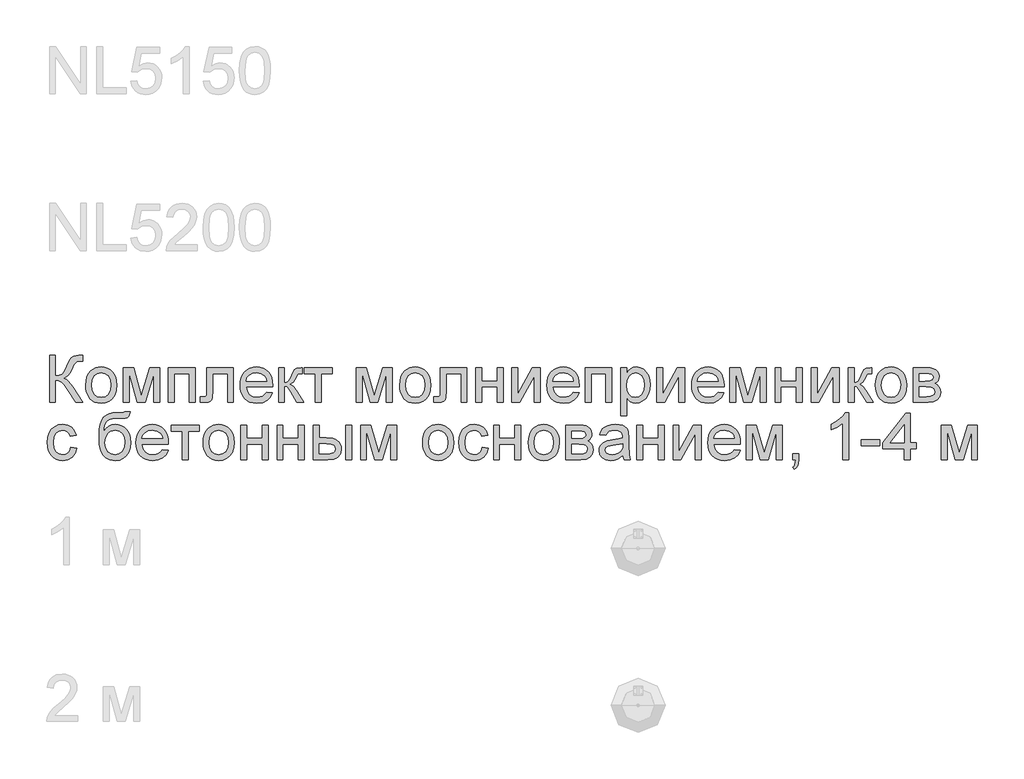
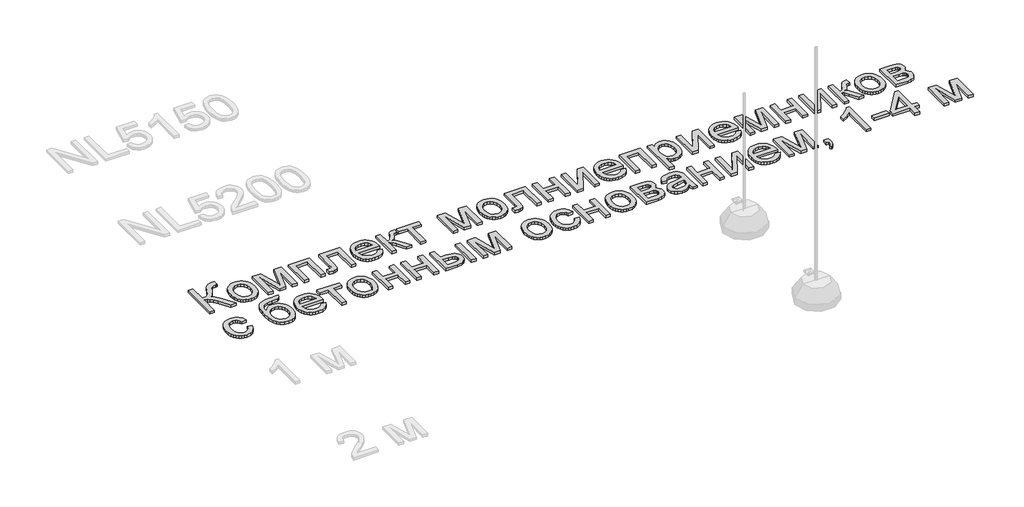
# One storey, part 63 of 124: 1 proxy.
"""IFC4 building model written with IfcOpenShell, lengths in millimetres."""

from ifc_helpers import new_model, si_unit, origin, origin_with_axes, place, context, project, spatial, polyline, outline, extrude, element, save

model = new_model("IFC4")

# Units and contexts
model_context = context("Model", 3, world=origin())
ifc_project = project(units=[si_unit("LENGTHUNIT", "METRE", prefix="MILLI")], contexts=[model_context])

# Site, building, storey
site = spatial("IfcSite", under=ifc_project)
building = spatial("IfcBuilding", under=site)
storey = spatial("IfcBuildingStorey", under=building, Name="Этаж 01", Elevation=0.0)

# Proxy
placement = place(None, origin())
element("IfcBuildingElementProxy", 1, Name="300", ObjectType="300", at=placement, inside=storey, context=model_context, shape_type="SweptSolid", body=[
    extrude(outline(polyline([(10399.8220677, -54773.1294316), (10437.493184, -54773.1294316), (10437.493184, -54904.9783386), (10462.9966033, -54902.4859381), (10479.6156724, -54895.0087366), (10493.0525623, -54877.4147801), (10509.0094439, -54844.572115), (10529.7947766, -54802.4496266), (10539.819561, -54791.0360877), (10553.3392243, -54781.5907174), (10569.3880763, -54775.244753), (10587.0004268, -54773.1294316), (10611.7220969, -54773.5708899), (10611.7220969, -54811.2420063), (10603.4079638, -54811.0212771), (10595.0938307, -54810.8005479), (10577.8401652, -54813.0630221), (10565.6632711, -54819.8504449), (10555.1786343, -54834.1058723), (10543.2960458, -54858.6252072), (10528.7187218, -54889.1594128), (10516.6246012, -54905.8612554), (10490.6153441, -54921.459452), (10505.2064637, -54927.6674607), (10519.6964158, -54938.4923884), (10548.3728173, -54973.9930009), (10611.7220969, -55074.498362), (10568.0177159, -55074.498362), (10514.4540974, -54989.5911975), (10493.7699322, -54962.3587328), (10476.7461929, -54945.2614171), (10459.3361775, -54936.2391112), (10437.493184, -54933.2316759), (10437.493184, -55074.498362), (10399.8220677, -55074.498362), (10399.8220677, -54773.1294316)])), origin_with_axes(), (0.0, 0.0, 1.0), 20.0),
    extrude(outline(polyline([(10630.5576551, -54963.8394579), (10632.5948016, -54935.1768519), (10638.7062413, -54910.4781745), (10648.891974, -54889.7434255), (10663.1519998, -54872.972605), (10677.5085947, -54862.2534434), (10693.3551116, -54854.5968994), (10710.6915507, -54850.002973), (10729.5179118, -54848.4716642), (10750.3009452, -54850.336366), (10769.0928174, -54855.9304716), (10785.8935283, -54865.2539809), (10800.7030778, -54878.306894), (10812.7903006, -54894.6477523), (10821.4240312, -54913.8350977), (10826.6042696, -54935.8689299), (10828.3310157, -54960.7492491), (10825.2775951, -54998.8066415), (10816.1173334, -55027.7773486), (10801.1169451, -55049.4731893), (10780.5431445, -55065.7059823), (10756.106583, -55075.8319342), (10729.5179118, -55079.2072515), (10708.4313757, -55077.3494475), (10689.4647595, -55071.7760352), (10672.6180634, -55062.4870149), (10657.8912873, -55049.4823863), (10645.9328232, -55032.9828788), (10637.3910631, -55013.2092216), (10632.2660071, -54990.1614146), (10630.5576551, -54963.8394579)]), holes=[polyline([(10668.2287714, -54963.7658815), (10672.588173, -54997.8593454), (10685.6663779, -55022.1487541), (10705.3480647, -55036.6892899), (10729.5179118, -55041.5361352), (10753.5773943, -55036.6616988), (10773.2222928, -55022.0383895), (10786.3004977, -54997.427084), (10790.6598994, -54962.5886591), (10786.2729066, -54929.4884766), (10773.1119282, -54905.5301616), (10753.4394385, -54890.9896258), (10729.5179118, -54886.1427805), (10705.3480647, -54890.9712317), (10685.6663779, -54905.4565852), (10672.588173, -54929.6908117), (10668.2287714, -54963.7658815)])]), origin_with_axes(), (0.0, 0.0, 1.0), 20.0),
    extrude(outline(polyline([(10870.7110215, -54853.1805537), (10935.5318291, -54853.1805537), (10985.490204, -55030.3525226), (11039.3481281, -54853.1805537), (11101.4466089, -54853.1805537), (11101.4466089, -55074.498362), (11063.7754926, -55074.498362), (11063.7754926, -54896.2963235), (11009.6232629, -55074.498362), (10960.1799227, -55074.498362), (10908.3821378, -54887.7614613), (10908.3821378, -55074.498362), (10870.7110215, -55074.498362), (10870.7110215, -54853.1805537)])), origin_with_axes(), (0.0, 0.0, 1.0), 20.0),
    extrude(outline(polyline([(11157.9532834, -54853.1805537), (11327.4733067, -54853.1805537), (11327.4733067, -55074.498362), (11289.8021904, -55074.498362), (11289.8021904, -54890.85167), (11195.6243997, -54890.85167), (11195.6243997, -55074.498362), (11157.9532834, -55074.498362), (11157.9532834, -54853.1805537)])), origin_with_axes(), (0.0, 0.0, 1.0), 20.0),
    extrude(outline(polyline([(11402.8155393, -54853.1805537), (11572.3355627, -54853.1805537), (11572.3355627, -55074.2776328), (11534.6644464, -55074.2776328), (11534.6644464, -54890.85167), (11440.4866556, -54890.85167), (11440.4866556, -54996.4338026), (11437.9482699, -55045.1413788), (11433.1933951, -55056.1686416), (11424.0055423, -55065.7059823), (11410.0628146, -55072.3002671), (11391.0433155, -55074.498362), (11360.4355335, -55072.5853756), (11360.4355335, -55036.8272457), (11377.2845289, -55036.8272457), (11394.3174653, -55034.5095891), (11401.1232822, -55027.1519492), (11402.8155393, -54994.3000871), (11402.8155393, -54853.1805537)])), origin_with_axes(), (0.0, 0.0, 1.0), 20.0),
    extrude(outline(polyline([(11783.7941335, -55008.5739085), (11820.7294859, -55013.282798), (11807.4213547, -55041.1130709), (11786.1853665, -55061.9167978), (11757.4997679, -55074.8846381), (11721.8428056, -55079.2072515), (11698.4685033, -55077.3425497), (11677.6417838, -55071.7484441), (11659.3626472, -55062.4249348), (11643.6310934, -55049.3720217), (11630.9805513, -55032.9529884), (11621.9444498, -55013.5311184), (11616.5227889, -54991.1064115), (11614.7155686, -54965.6788678), (11616.541183, -54939.3891007), (11622.0180262, -54916.2171336), (11631.1460982, -54896.1629663), (11643.925399, -54879.226599), (11659.6155661, -54865.771315), (11677.4762369, -54856.1603979), (11697.5074116, -54850.3938476), (11719.70909, -54848.4716642), (11741.1956978, -54850.3892491), (11760.6267649, -54856.1420038), (11778.0022914, -54865.7299283), (11793.3222772, -54879.1530226), (11805.8279658, -54896.0526017), (11814.7606005, -54916.0699808), (11820.1201813, -54939.2051598), (11821.9067082, -54965.4581386), (11821.6859791, -54975.6116817), (11652.3866849, -54975.6116817), (11658.9073932, -55003.8098366), (11674.0549344, -55024.5399871), (11695.916322, -55037.2870982), (11722.5785696, -55041.5361352), (11742.6281383, -55039.5679666), (11759.5139219, -55033.6634605), (11773.2359203, -55023.4547352), (11783.7941335, -55008.5739085)]), holes=[polyline([(11652.3866849, -54937.9405654), (11784.2355919, -54937.9405654), (11779.1404263, -54918.0381495), (11769.1524301, -54903.8011162), (11747.189875, -54890.5573644), (11719.5619372, -54886.1427805), (11694.1688825, -54889.6652506), (11673.1720176, -54900.2326609), (11658.5762994, -54916.7045772), (11652.3866849, -54937.9405654)])]), origin_with_axes(), (0.0, 0.0, 1.0), 20.0),
    extrude(outline(polyline([(11859.5778246, -54853.1805537), (11897.2489409, -54853.1805537), (11897.2489409, -54947.3583445), (11912.571226, -54945.6660873), (11922.4856457, -54940.5893158), (11931.2596313, -54927.3455639), (11943.1606139, -54901.1523659), (11960.340703, -54867.1232813), (11975.4974412, -54856.0500333), (12003.0518027, -54853.1805537), (12010.2622898, -54853.1805537), (12010.2622898, -54891.0723992), (12000.1087467, -54890.85167), (11981.714647, -54894.8247956), (11968.7652007, -54919.620042), (11953.5716743, -54946.4386395), (11932.2713068, -54959.5720267), (11944.2090775, -54964.874126), (11956.0364837, -54974.2321242), (11979.3602022, -55005.1158177), (12019.6800689, -55074.498362), (11976.8586046, -55074.498362), (11937.3480783, -55006.5873457), (11917.4824506, -54977.8557619), (11908.1934302, -54972.6410346), (11897.2489409, -54970.9027922), (11897.2489409, -55074.498362), (11859.5778246, -55074.498362), (11859.5778246, -54853.1805537)])), origin_with_axes(), (0.0, 0.0, 1.0), 20.0),
    extrude(outline(polyline([(12024.3889584, -54853.1805537), (12203.3267608, -54853.1805537), (12203.3267608, -54890.85167), (12132.6934178, -54890.85167), (12132.6934178, -55074.498362), (12095.0223015, -55074.498362), (12095.0223015, -54890.85167), (12024.3889584, -54890.85167), (12024.3889584, -54853.1805537)])), origin_with_axes(), (0.0, 0.0, 1.0), 20.0),
    extrude(outline(polyline([(12354.0112261, -54853.1805537), (12418.8320336, -54853.1805537), (12468.7904086, -55030.3525226), (12522.6483327, -54853.1805537), (12584.7468134, -54853.1805537), (12584.7468134, -55074.498362), (12547.0756971, -55074.498362), (12547.0756971, -54896.2963235), (12492.9234675, -55074.498362), (12443.4801273, -55074.498362), (12391.6823424, -54887.7614613), (12391.6823424, -55074.498362), (12354.0112261, -55074.498362), (12354.0112261, -54853.1805537)])), origin_with_axes(), (0.0, 0.0, 1.0), 20.0),
    extrude(outline(polyline([(12631.8357088, -54963.8394579), (12633.8728554, -54935.1768519), (12639.984295, -54910.4781745), (12650.1700278, -54889.7434255), (12664.4300536, -54872.972605), (12678.7866485, -54862.2534434), (12694.6331654, -54854.5968994), (12711.9696044, -54850.002973), (12730.7959655, -54848.4716642), (12751.578999, -54850.336366), (12770.3708712, -54855.9304716), (12787.171582, -54865.2539809), (12801.9811316, -54878.306894), (12814.0683544, -54894.6477523), (12822.702085, -54913.8350977), (12827.8823233, -54935.8689299), (12829.6090694, -54960.7492491), (12826.5556489, -54998.8066415), (12817.3953872, -55027.7773486), (12802.3949988, -55049.4731893), (12781.8211983, -55065.7059823), (12757.3846367, -55075.8319342), (12730.7959655, -55079.2072515), (12709.7094294, -55077.3494475), (12690.7428133, -55071.7760352), (12673.8961172, -55062.4870149), (12659.1693411, -55049.4823863), (12647.210877, -55032.9828788), (12638.6691169, -55013.2092216), (12633.5440608, -54990.1614146), (12631.8357088, -54963.8394579)]), holes=[polyline([(12669.5068251, -54963.7658815), (12673.8662268, -54997.8593454), (12686.9444317, -55022.1487541), (12706.6261184, -55036.6892899), (12730.7959655, -55041.5361352), (12754.855448, -55036.6616988), (12774.5003466, -55022.0383895), (12787.5785515, -54997.427084), (12791.9379531, -54962.5886591), (12787.5509603, -54929.4884766), (12774.389982, -54905.5301616), (12754.7174923, -54890.9896258), (12730.7959655, -54886.1427805), (12706.6261184, -54890.9712317), (12686.9444317, -54905.4565852), (12673.8662268, -54929.6908117), (12669.5068251, -54963.7658815)])]), origin_with_axes(), (0.0, 0.0, 1.0), 20.0),
    extrude(outline(polyline([(12890.8246334, -54853.1805537), (13060.3446568, -54853.1805537), (13060.3446568, -55074.2776328), (13022.6735405, -55074.2776328), (13022.6735405, -54890.85167), (12928.4957497, -54890.85167), (12928.4957497, -54996.4338026), (12925.957364, -55045.1413788), (12921.2024892, -55056.1686416), (12912.0146364, -55065.7059823), (12898.0719087, -55072.3002671), (12879.0524096, -55074.498362), (12848.4446276, -55072.5853756), (12848.4446276, -55036.8272457), (12865.293623, -55036.8272457), (12882.3265593, -55034.5095891), (12889.1323763, -55027.1519492), (12890.8246334, -54994.3000871), (12890.8246334, -54853.1805537)])), origin_with_axes(), (0.0, 0.0, 1.0), 20.0),
    extrude(outline(polyline([(13116.8513313, -54853.1805537), (13154.5224476, -54853.1805537), (13154.5224476, -54937.9405654), (13253.4091279, -54937.9405654), (13253.4091279, -54853.1805537), (13291.0802442, -54853.1805537), (13291.0802442, -55074.498362), (13253.4091279, -55074.498362), (13253.4091279, -54975.6116817), (13154.5224476, -54975.6116817), (13154.5224476, -55074.498362), (13116.8513313, -55074.498362), (13116.8513313, -54853.1805537)])), origin_with_axes(), (0.0, 0.0, 1.0), 20.0),
    extrude(outline(polyline([(13347.5869186, -54853.1805537), (13385.258035, -54853.1805537), (13385.258035, -55021.9648131), (13477.8171449, -54853.1805537), (13526.5247211, -54853.1805537), (13526.5247211, -55074.498362), (13488.8536048, -55074.498362), (13488.8536048, -54906.7441722), (13396.883106, -55074.498362), (13347.5869186, -55074.498362), (13347.5869186, -54853.1805537)])), origin_with_axes(), (0.0, 0.0, 1.0), 20.0),
    extrude(outline(polyline([(13737.9832919, -55008.5739085), (13774.9186442, -55013.282798), (13761.6105131, -55041.1130709), (13740.3745249, -55061.9167978), (13711.6889263, -55074.8846381), (13676.0319639, -55079.2072515), (13652.6576617, -55077.3425497), (13631.8309422, -55071.7484441), (13613.5518056, -55062.4249348), (13597.8202518, -55049.3720217), (13585.1697097, -55032.9529884), (13576.1336081, -55013.5311184), (13570.7119472, -54991.1064115), (13568.9047269, -54965.6788678), (13570.7303413, -54939.3891007), (13576.2071845, -54916.2171336), (13585.3352566, -54896.1629663), (13598.1145574, -54879.226599), (13613.8047245, -54865.771315), (13631.6653953, -54856.1603979), (13651.69657, -54850.3938476), (13673.8982484, -54848.4716642), (13695.3848561, -54850.3892491), (13714.8159233, -54856.1420038), (13732.1914498, -54865.7299283), (13747.5114356, -54879.1530226), (13760.0171242, -54896.0526017), (13768.9497589, -54916.0699808), (13774.3093397, -54939.2051598), (13776.0958666, -54965.4581386), (13775.8751374, -54975.6116817), (13606.5758433, -54975.6116817), (13613.0965516, -55003.8098366), (13628.2440928, -55024.5399871), (13650.1054803, -55037.2870982), (13676.7677279, -55041.5361352), (13696.8172967, -55039.5679666), (13713.7030802, -55033.6634605), (13727.4250787, -55023.4547352), (13737.9832919, -55008.5739085)]), holes=[polyline([(13606.5758433, -54937.9405654), (13738.4247503, -54937.9405654), (13733.3295847, -54918.0381495), (13723.3415885, -54903.8011162), (13701.3790334, -54890.5573644), (13673.7510956, -54886.1427805), (13648.3580409, -54889.6652506), (13627.361176, -54900.2326609), (13612.7654578, -54916.7045772), (13606.5758433, -54937.9405654)])]), origin_with_axes(), (0.0, 0.0, 1.0), 20.0),
    extrude(outline(polyline([(13813.7669829, -54853.1805537), (13983.2870063, -54853.1805537), (13983.2870063, -55074.498362), (13945.61589, -55074.498362), (13945.61589, -54890.85167), (13851.4380992, -54890.85167), (13851.4380992, -55074.498362), (13813.7669829, -55074.498362), (13813.7669829, -54853.1805537)])), origin_with_axes(), (0.0, 0.0, 1.0), 20.0),
    extrude(outline(polyline([(14039.7936808, -55159.2583737), (14039.7936808, -54853.1805537), (14077.4647971, -54853.1805537), (14077.4647971, -54890.115906), (14089.7520557, -54871.8965502), (14103.5108423, -54858.8827246), (14119.5504973, -54851.0744293), (14138.6803611, -54848.4716642), (14164.1561892, -54852.1136959), (14186.431444, -54863.0397912), (14204.5680264, -54880.5877623), (14217.6278372, -54904.0954218), (14225.518906, -54931.8521184), (14228.1492623, -54962.1472007), (14225.1786152, -54994.3644664), (14216.2666739, -55023.1788237), (14201.6985468, -55047.1279416), (14181.7593427, -55064.7494891), (14158.5367918, -55075.5928109), (14134.1186243, -55079.2072515), (14116.8005794, -55076.7884274), (14101.3403386, -55069.5319551), (14088.1057838, -55058.5782687), (14077.4647971, -55045.0678024), (14077.4647971, -55159.2583737), (14039.7936808, -55159.2583737)]), holes=[polyline([(14077.4647971, -54965.6052914), (14081.5390902, -54999.3768586), (14093.7619695, -55022.9948827), (14111.7973843, -55036.9008221), (14133.3092839, -55041.5361352), (14155.1706715, -55036.7352752), (14173.6659388, -55022.3326951), (14186.2750942, -54997.8501483), (14190.478146, -54962.8093883), (14186.3762617, -54929.2217621), (14174.070609, -54905.2726442), (14156.0627853, -54890.9252464), (14134.8543883, -54886.1427805), (14113.5632179, -54891.2287491), (14094.8656154, -54906.4866548), (14081.8150017, -54931.4382511), (14077.4647971, -54965.6052914)])]), origin_with_axes(), (0.0, 0.0, 1.0), 20.0),
    extrude(outline(polyline([(14270.5292681, -54853.1805537), (14308.2003845, -54853.1805537), (14308.2003845, -55021.9648131), (14400.7594944, -54853.1805537), (14449.4670706, -54853.1805537), (14449.4670706, -55074.498362), (14411.7959543, -55074.498362), (14411.7959543, -54906.7441722), (14319.8254555, -55074.498362), (14270.5292681, -55074.498362), (14270.5292681, -54853.1805537)])), origin_with_axes(), (0.0, 0.0, 1.0), 20.0),
    extrude(outline(polyline([(14660.9256414, -55008.5739085), (14697.8609937, -55013.282798), (14684.5528626, -55041.1130709), (14663.3168744, -55061.9167978), (14634.6312758, -55074.8846381), (14598.9743134, -55079.2072515), (14575.6000112, -55077.3425497), (14554.7732917, -55071.7484441), (14536.4941551, -55062.4249348), (14520.7626013, -55049.3720217), (14508.1120592, -55032.9529884), (14499.0759576, -55013.5311184), (14493.6542967, -54991.1064115), (14491.8470764, -54965.6788678), (14493.6726908, -54939.3891007), (14499.149534, -54916.2171336), (14508.2776061, -54896.1629663), (14521.0569069, -54879.226599), (14536.747074, -54865.771315), (14554.6077448, -54856.1603979), (14574.6389195, -54850.3938476), (14596.8405979, -54848.4716642), (14618.3272056, -54850.3892491), (14637.7582728, -54856.1420038), (14655.1337993, -54865.7299283), (14670.4537851, -54879.1530226), (14682.9594737, -54896.0526017), (14691.8921084, -54916.0699808), (14697.2516892, -54939.2051598), (14699.0382161, -54965.4581386), (14698.8174869, -54975.6116817), (14529.5181928, -54975.6116817), (14536.0389011, -55003.8098366), (14551.1864423, -55024.5399871), (14573.0478298, -55037.2870982), (14599.7100774, -55041.5361352), (14619.7596462, -55039.5679666), (14636.6454297, -55033.6634605), (14650.3674282, -55023.4547352), (14660.9256414, -55008.5739085)]), holes=[polyline([(14529.5181928, -54937.9405654), (14661.3670998, -54937.9405654), (14656.2719342, -54918.0381495), (14646.283938, -54903.8011162), (14624.3213829, -54890.5573644), (14596.6934451, -54886.1427805), (14571.3003904, -54889.6652506), (14550.3035255, -54900.2326609), (14535.7078073, -54916.7045772), (14529.5181928, -54937.9405654)])]), origin_with_axes(), (0.0, 0.0, 1.0), 20.0),
    extrude(outline(polyline([(14736.7093324, -54853.1805537), (14801.53014, -54853.1805537), (14851.4885149, -55030.3525226), (14905.346439, -54853.1805537), (14967.4449198, -54853.1805537), (14967.4449198, -55074.498362), (14929.7738035, -55074.498362), (14929.7738035, -54896.2963235), (14875.6215738, -55074.498362), (14826.1782337, -55074.498362), (14774.3804487, -54887.7614613), (14774.3804487, -55074.498362), (14736.7093324, -55074.498362), (14736.7093324, -54853.1805537)])), origin_with_axes(), (0.0, 0.0, 1.0), 20.0),
    extrude(outline(polyline([(15023.9515943, -54853.1805537), (15061.6227106, -54853.1805537), (15061.6227106, -54937.9405654), (15160.5093909, -54937.9405654), (15160.5093909, -54853.1805537), (15198.1805072, -54853.1805537), (15198.1805072, -55074.498362), (15160.5093909, -55074.498362), (15160.5093909, -54975.6116817), (15061.6227106, -54975.6116817), (15061.6227106, -55074.498362), (15023.9515943, -55074.498362), (15023.9515943, -54853.1805537)])), origin_with_axes(), (0.0, 0.0, 1.0), 20.0),
    extrude(outline(polyline([(15254.6871816, -54853.1805537), (15292.3582979, -54853.1805537), (15292.3582979, -55021.9648131), (15384.9174079, -54853.1805537), (15433.6249841, -54853.1805537), (15433.6249841, -55074.498362), (15395.9538678, -55074.498362), (15395.9538678, -54906.7441722), (15303.983369, -55074.498362), (15254.6871816, -55074.498362), (15254.6871816, -54853.1805537)])), origin_with_axes(), (0.0, 0.0, 1.0), 20.0),
    extrude(outline(polyline([(15490.1316586, -54853.1805537), (15527.8027749, -54853.1805537), (15527.8027749, -54947.3583445), (15543.12506, -54945.6660873), (15553.0394797, -54940.5893158), (15561.8134653, -54927.3455639), (15573.7144479, -54901.1523659), (15590.894537, -54867.1232813), (15606.0512752, -54856.0500333), (15633.6056367, -54853.1805537), (15640.8161238, -54853.1805537), (15640.8161238, -54891.0723992), (15630.6625807, -54890.85167), (15612.268481, -54894.8247956), (15599.3190347, -54919.620042), (15584.1255083, -54946.4386395), (15562.8251408, -54959.5720267), (15574.7629115, -54964.874126), (15586.5903177, -54974.2321242), (15609.9140362, -55005.1158177), (15650.2339029, -55074.498362), (15607.4124386, -55074.498362), (15567.9019123, -55006.5873457), (15548.0362846, -54977.8557619), (15538.7472642, -54972.6410346), (15527.8027749, -54970.9027922), (15527.8027749, -55074.498362), (15490.1316586, -55074.498362), (15490.1316586, -54853.1805537)])), origin_with_axes(), (0.0, 0.0, 1.0), 20.0),
    extrude(outline(polyline([(15664.3605715, -54963.8394579), (15666.397718, -54935.1768519), (15672.5091577, -54910.4781745), (15682.6948904, -54889.7434255), (15696.9549162, -54872.972605), (15711.3115111, -54862.2534434), (15727.158028, -54854.5968994), (15744.4944671, -54850.002973), (15763.3208282, -54848.4716642), (15784.1038616, -54850.336366), (15802.8957338, -54855.9304716), (15819.6964447, -54865.2539809), (15834.5059942, -54878.306894), (15846.593217, -54894.6477523), (15855.2269476, -54913.8350977), (15860.407186, -54935.8689299), (15862.1339321, -54960.7492491), (15859.0805115, -54998.8066415), (15849.9202498, -55027.7773486), (15834.9198615, -55049.4731893), (15814.3460609, -55065.7059823), (15789.9094994, -55075.8319342), (15763.3208282, -55079.2072515), (15742.2342921, -55077.3494475), (15723.2676759, -55071.7760352), (15706.4209798, -55062.4870149), (15691.6942037, -55049.4823863), (15679.7357396, -55032.9828788), (15671.1939795, -55013.2092216), (15666.0689235, -54990.1614146), (15664.3605715, -54963.8394579)]), holes=[polyline([(15702.0316878, -54963.7658815), (15706.3910894, -54997.8593454), (15719.4692943, -55022.1487541), (15739.1509811, -55036.6892899), (15763.3208282, -55041.5361352), (15787.3803107, -55036.6616988), (15807.0252092, -55022.0383895), (15820.1034141, -54997.427084), (15824.4628158, -54962.5886591), (15820.075823, -54929.4884766), (15806.9148446, -54905.5301616), (15787.2423549, -54890.9896258), (15763.3208282, -54886.1427805), (15739.1509811, -54890.9712317), (15719.4692943, -54905.4565852), (15706.3910894, -54929.6908117), (15702.0316878, -54963.7658815)])]), origin_with_axes(), (0.0, 0.0, 1.0), 20.0),
    extrude(outline(polyline([(15904.5139379, -54853.1805537), (15987.508116, -54853.1805537), (16014.1887577, -54854.4405495), (16033.0151188, -54858.220537), (16046.865876, -54865.3574477), (16058.6197057, -54876.6882132), (16066.6487302, -54891.4494783), (16069.3250718, -54908.8778878), (16067.706391, -54922.9217829), (16062.8503486, -54935.0342976), (16054.7385507, -54945.2706141), (16043.3526029, -54953.6859148), (16057.2953305, -54961.5126042), (16068.6628842, -54974.1033655), (16076.2228592, -54990.4649173), (16078.7428508, -55009.6039781), (16072.3600982, -55038.3171678), (16057.1849659, -55058.5322834), (16033.1622716, -55070.5068424), (16000.2368331, -55074.498362), (15904.5139379, -55074.498362), (15904.5139379, -54853.1805537)]), holes=[polyline([(15942.1850542, -54937.9405654), (15979.4147121, -54937.9405654), (16010.1328587, -54936.027579), (16025.0688677, -54928.3756335), (16030.0076835, -54922.0480632), (16031.6539555, -54914.5432705), (16028.7660818, -54903.3044755), (16020.1024608, -54896.0755943), (16004.4490819, -54892.1576511), (15980.5919345, -54890.85167), (15942.1850542, -54890.85167), (15942.1850542, -54937.9405654)]), polyline([(15942.1850542, -55036.8272457), (15988.3910328, -55036.8272457), (16013.5725554, -55035.1257915), (16029.3730871, -55030.0214288), (16037.8527671, -55020.7416055), (16041.0717345, -55006.5137693), (16039.4622508, -54997.0867932), (16034.6337996, -54988.3771869), (16027.2209774, -54981.562173), (16017.8583806, -54977.8189737), (15984.7122129, -54975.6116817), (15942.1850542, -54975.6116817), (15942.1850542, -55036.8272457)])]), origin_with_axes(), (0.0, 0.0, 1.0), 20.0),
    extrude(outline(polyline([(10536.3798643, -55360.3716934), (10574.0509806, -55365.0805829), (10563.5479496, -55398.5854356), (10543.8110806, -55423.904914), (10516.6981776, -55439.8250073), (10484.0670446, -55445.1317051), (10462.9391218, -55443.2807988), (10443.9954983, -55437.7280799), (10427.2361741, -55428.4735485), (10412.6611493, -55415.5172045), (10400.8636336, -55399.1027697), (10392.4368366, -55379.473966), (10387.3807585, -55356.6307933), (10385.6953991, -55330.5732518), (10388.5740757, -55297.050005), (10397.2101055, -55267.9965244), (10411.7414443, -55244.5348502), (10432.3060479, -55227.7870223), (10456.9081563, -55217.7438439), (10483.5520098, -55214.3961177), (10515.3829994, -55218.9946426), (10540.8312364, -55232.7902175), (10559.0873805, -55255.0470782), (10569.3420911, -55285.0294608), (10531.6709748, -55289.7383503), (10524.8375667, -55273.3032222), (10514.19658, -55261.5218013), (10500.3366258, -55254.4308758), (10483.8463154, -55252.067234), (10459.5017244, -55256.7209412), (10440.1787226, -55270.682063), (10427.5695672, -55294.7047572), (10423.3665154, -55329.5431822), (10427.4775967, -55364.8506567), (10439.8108406, -55388.9561244), (10458.7843545, -55402.8344727), (10482.8162458, -55407.4605888), (10502.3231886, -55404.5727151), (10518.3168583, -55395.9090941), (10529.9511264, -55381.2489966), (10536.3798643, -55360.3716934)])), origin_with_axes(), (0.0, 0.0, 1.0), 20.0),
    extrude(outline(polyline([(10880.1288006, -55134.3449956), (10913.0910274, -55134.3449956), (10909.522572, -55152.2516517), (10903.3789427, -55163.738767), (10894.8624745, -55170.5353868), (10884.1755025, -55174.3705566), (10838.0431003, -55176.7250014), (10799.7373876, -55178.8955052), (10775.9078314, -55185.4070165), (10761.652404, -55196.7009937), (10752.0690781, -55213.2188953), (10746.4312865, -55235.0894799), (10744.0124624, -55262.4415063), (10759.1600035, -55241.3986561), (10776.6435954, -55226.3890707), (10796.4816319, -55217.394356), (10818.6925074, -55214.3961177), (10839.2157242, -55216.3022063), (10857.890334, -55222.0204721), (10874.7163367, -55231.550915), (10889.6937325, -55244.8935351), (10901.9901882, -55261.4873123), (10910.7733708, -55280.7712267), (10916.0432804, -55302.7452781), (10917.7999169, -55327.4094666), (10914.314235, -55363.3699316), (10903.8571893, -55392.2302742), (10888.6176776, -55414.6618788), (10870.7845979, -55431.3361303), (10848.1966434, -55441.6828114), (10818.6925074, -55445.1317051), (10784.691014, -55440.68953), (10759.2059888, -55427.3630047), (10740.4532041, -55407.1111009), (10726.6484322, -55381.8927901), (10718.1503581, -55343.9181712), (10715.3176668, -55285.3973428), (10717.1041937, -55245.7327659), (10722.4637745, -55213.1177278), (10731.3964092, -55187.5522284), (10743.9020978, -55169.0362677), (10760.1141975, -55155.9189753), (10780.1660655, -55146.5494807), (10804.0577018, -55140.927784), (10831.7891064, -55139.0538851), (10873.7276539, -55138.2077565), (10880.1288006, -55134.3449956)]), holes=[polyline([(10880.1288006, -55326.2322442), (10876.0453105, -55296.5901525), (10863.79484, -55272.8525667), (10844.1131533, -55257.2635672), (10817.7360142, -55252.067234), (10790.2368351, -55257.5578728), (10779.1497914, -55264.4211713), (10769.8377784, -55274.0297891), (10757.2010319, -55299.6803612), (10752.9887831, -55332.7069673), (10757.6424903, -55364.721898), (10771.603612, -55388.2203604), (10792.3889447, -55402.6505317), (10817.515285, -55407.4605888), (10842.770384, -55401.8963736), (10862.7647704, -55385.2037281), (10875.7877931, -55359.3324268), (10880.1288006, -55326.2322442)])]), origin_with_axes(), (0.0, 0.0, 1.0), 20.0),
    extrude(outline(polyline([(11119.8407087, -55374.498362), (11156.776061, -55379.2072515), (11143.4679298, -55407.0375245), (11122.2319416, -55427.8412513), (11093.546343, -55440.8090916), (11057.8893807, -55445.1317051), (11034.5150784, -55443.2670032), (11013.6883589, -55437.6728976), (10995.4092223, -55428.3493883), (10979.6776685, -55415.2964753), (10967.0271264, -55398.877442), (10957.9910249, -55379.4555719), (10952.569364, -55357.030865), (10950.7621437, -55331.6033214), (10952.5877581, -55305.3135543), (10958.0646013, -55282.1415871), (10967.1926733, -55262.0874199), (10979.9719741, -55245.1510525), (10995.6621412, -55231.6957685), (11013.522812, -55222.0848514), (11033.5539867, -55216.3183011), (11055.7556651, -55214.3961177), (11077.2422729, -55216.3137026), (11096.67334, -55222.0664573), (11114.0488665, -55231.6543818), (11129.3688523, -55245.0774761), (11141.8745409, -55261.9770553), (11150.8071756, -55281.9944343), (11156.1667564, -55305.1296133), (11157.9532834, -55331.3825922), (11157.7325542, -55341.5361352), (10988.43326, -55341.5361352), (10994.9539683, -55369.7342902), (11010.1015095, -55390.4644406), (11031.9628971, -55403.2115517), (11058.6251447, -55407.4605888), (11078.6747134, -55405.4924201), (11095.560497, -55399.5879141), (11109.2824954, -55389.3791887), (11119.8407087, -55374.498362)]), holes=[polyline([(10988.43326, -55303.8650189), (11120.282167, -55303.8650189), (11115.1870014, -55283.962603), (11105.1990052, -55269.7255698), (11083.2364501, -55256.4818179), (11055.6085123, -55252.067234), (11030.2154576, -55255.5897041), (11009.2185927, -55266.1571144), (10994.6228745, -55282.6290308), (10988.43326, -55303.8650189)])]), origin_with_axes(), (0.0, 0.0, 1.0), 20.0),
    extrude(outline(polyline([(11176.7888415, -55219.1050072), (11355.726644, -55219.1050072), (11355.726644, -55256.7761235), (11285.0933009, -55256.7761235), (11285.0933009, -55440.4228155), (11247.4221846, -55440.4228155), (11247.4221846, -55256.7761235), (11176.7888415, -55256.7761235), (11176.7888415, -55219.1050072)])), origin_with_axes(), (0.0, 0.0, 1.0), 20.0),
    extrude(outline(polyline([(11379.2710917, -55329.7639114), (11381.3082382, -55301.1013054), (11387.4196778, -55276.402628), (11397.6054106, -55255.667879), (11411.8654364, -55238.8970586), (11426.2220313, -55228.1778969), (11442.0685482, -55220.5213529), (11459.4049873, -55215.9274265), (11478.2313484, -55214.3961177), (11499.0143818, -55216.2608196), (11517.806254, -55221.8549252), (11534.6069649, -55231.1784345), (11549.4165144, -55244.2313475), (11561.5037372, -55260.5722059), (11570.1374678, -55279.7595512), (11575.3177061, -55301.7933834), (11577.0444523, -55326.6737026), (11573.9910317, -55364.731095), (11564.83077, -55393.7018022), (11549.8303817, -55415.3976428), (11529.2565811, -55431.6304359), (11504.8200196, -55441.7563878), (11478.2313484, -55445.1317051), (11457.1448122, -55443.273901), (11438.1781961, -55437.7004888), (11421.3315, -55428.4114684), (11406.6047239, -55415.4068399), (11394.6462598, -55398.9073324), (11386.1044997, -55379.1336751), (11380.9794437, -55356.0858681), (11379.2710917, -55329.7639114)]), holes=[polyline([(11416.942208, -55329.690335), (11421.3016096, -55363.7837989), (11434.3798145, -55388.0732076), (11454.0615013, -55402.6137435), (11478.2313484, -55407.4605888), (11502.2908308, -55402.5861523), (11521.9357294, -55387.962843), (11535.0139343, -55363.3515375), (11539.373336, -55328.5131126), (11534.9863432, -55295.4129301), (11521.8253648, -55271.4546152), (11502.1528751, -55256.9140793), (11478.2313484, -55252.067234), (11454.0615013, -55256.8956852), (11434.3798145, -55271.3810388), (11421.3016096, -55295.6152652), (11416.942208, -55329.690335)])]), origin_with_axes(), (0.0, 0.0, 1.0), 20.0),
    extrude(outline(polyline([(11619.4244581, -55219.1050072), (11657.0955744, -55219.1050072), (11657.0955744, -55303.8650189), (11755.9822547, -55303.8650189), (11755.9822547, -55219.1050072), (11793.653371, -55219.1050072), (11793.653371, -55440.4228155), (11755.9822547, -55440.4228155), (11755.9822547, -55341.5361352), (11657.0955744, -55341.5361352), (11657.0955744, -55440.4228155), (11619.4244581, -55440.4228155), (11619.4244581, -55219.1050072)])), origin_with_axes(), (0.0, 0.0, 1.0), 20.0),
    extrude(outline(polyline([(11850.1600455, -55219.1050072), (11887.8311618, -55219.1050072), (11887.8311618, -55303.8650189), (11986.7178421, -55303.8650189), (11986.7178421, -55219.1050072), (12024.3889584, -55219.1050072), (12024.3889584, -55440.4228155), (11986.7178421, -55440.4228155), (11986.7178421, -55341.5361352), (11887.8311618, -55341.5361352), (11887.8311618, -55440.4228155), (11850.1600455, -55440.4228155), (11850.1600455, -55219.1050072)])), origin_with_axes(), (0.0, 0.0, 1.0), 20.0),
    extrude(outline(polyline([(12288.0867725, -55219.1050072), (12325.7578888, -55219.1050072), (12325.7578888, -55440.4228155), (12288.0867725, -55440.4228155), (12288.0867725, -55219.1050072)])), origin_with_axes(), (0.0, 0.0, 1.0), 20.0),
    extrude(outline(polyline([(12080.8956329, -55219.1050072), (12118.5667492, -55219.1050072), (12118.5667492, -55299.1561294), (12165.1406097, -55299.1561294), (12205.3960971, -55303.874216), (12221.6127953, -55309.7718242), (12235.2221298, -55318.0284757), (12245.989576, -55328.359062), (12253.6806089, -55340.4784745), (12258.2952287, -55354.3867132), (12259.8334353, -55370.0837781), (12254.6738903, -55397.0403313), (12239.1952554, -55419.7846356), (12227.3333603, -55428.8138393), (12212.385855, -55435.2632706), (12173.2340136, -55440.4228155), (12080.8956329, -55440.4228155), (12080.8956329, -55219.1050072)]), holes=[polyline([(12118.5667492, -55402.7516992), (12157.2679351, -55402.7516992), (12187.2687118, -55400.7743335), (12207.22631, -55394.8422363), (12218.4283168, -55384.7162844), (12222.162319, -55370.1573545), (12219.394007, -55357.8517017), (12211.0890709, -55346.9807888), (12193.3295676, -55339.3656315), (12162.1975538, -55336.8272457), (12118.5667492, -55336.8272457), (12118.5667492, -55402.7516992)])]), origin_with_axes(), (0.0, 0.0, 1.0), 20.0),
    extrude(outline(polyline([(12382.2645633, -55219.1050072), (12447.0853709, -55219.1050072), (12497.0437458, -55396.2769761), (12550.9016699, -55219.1050072), (12613.0001507, -55219.1050072), (12613.0001507, -55440.4228155), (12575.3290344, -55440.4228155), (12575.3290344, -55262.2207771), (12521.1768047, -55440.4228155), (12471.7334645, -55440.4228155), (12419.9356796, -55253.6859148), (12419.9356796, -55440.4228155), (12382.2645633, -55440.4228155), (12382.2645633, -55219.1050072)])), origin_with_axes(), (0.0, 0.0, 1.0), 20.0),
    extrude(outline(polyline([(12777.8112845, -55329.7639114), (12779.8484311, -55301.1013054), (12785.9598707, -55276.402628), (12796.1456035, -55255.667879), (12810.4056293, -55238.8970586), (12824.7622242, -55228.1778969), (12840.6087411, -55220.5213529), (12857.9451801, -55215.9274265), (12876.7715412, -55214.3961177), (12897.5545747, -55216.2608196), (12916.3464469, -55221.8549252), (12933.1471577, -55231.1784345), (12947.9567073, -55244.2313475), (12960.0439301, -55260.5722059), (12968.6776607, -55279.7595512), (12973.857899, -55301.7933834), (12975.5846451, -55326.6737026), (12972.5312246, -55364.731095), (12963.3709629, -55393.7018022), (12948.3705745, -55415.3976428), (12927.796774, -55431.6304359), (12903.3602124, -55441.7563878), (12876.7715412, -55445.1317051), (12855.6850051, -55443.273901), (12836.718389, -55437.7004888), (12819.8716929, -55428.4114684), (12805.1449168, -55415.4068399), (12793.1864527, -55398.9073324), (12784.6446926, -55379.1336751), (12779.5196365, -55356.0858681), (12777.8112845, -55329.7639114)]), holes=[polyline([(12815.4824008, -55329.690335), (12819.8418025, -55363.7837989), (12832.9200074, -55388.0732076), (12852.6016941, -55402.6137435), (12876.7715412, -55407.4605888), (12900.8310237, -55402.5861523), (12920.4759222, -55387.962843), (12933.5541272, -55363.3515375), (12937.9135288, -55328.5131126), (12933.526536, -55295.4129301), (12920.3655576, -55271.4546152), (12900.693068, -55256.9140793), (12876.7715412, -55252.067234), (12852.6016941, -55256.8956852), (12832.9200074, -55271.3810388), (12819.8418025, -55295.6152652), (12815.4824008, -55329.690335)])]), origin_with_axes(), (0.0, 0.0, 1.0), 20.0),
    extrude(outline(polyline([(13159.2313371, -55360.3716934), (13196.9024534, -55365.0805829), (13186.3994225, -55398.5854356), (13166.6625534, -55423.904914), (13139.5496504, -55439.8250073), (13106.9185174, -55445.1317051), (13085.7905946, -55443.2807988), (13066.8469711, -55437.7280799), (13050.0876469, -55428.4735485), (13035.5126221, -55415.5172045), (13023.7151064, -55399.1027697), (13015.2883095, -55379.473966), (13010.2322313, -55356.6307933), (13008.5468719, -55330.5732518), (13011.4255485, -55297.050005), (13020.0615783, -55267.9965244), (13034.5929171, -55244.5348502), (13055.1575207, -55227.7870223), (13079.7596291, -55217.7438439), (13106.4034826, -55214.3961177), (13138.2344722, -55218.9946426), (13163.6827093, -55232.7902175), (13181.9388533, -55255.0470782), (13192.1935639, -55285.0294608), (13154.5224476, -55289.7383503), (13147.6890395, -55273.3032222), (13137.0480528, -55261.5218013), (13123.1880986, -55254.4308758), (13106.6977882, -55252.067234), (13082.3531972, -55256.7209412), (13063.0301954, -55270.682063), (13050.42104, -55294.7047572), (13046.2179882, -55329.5431822), (13050.3290695, -55364.8506567), (13062.6623134, -55388.9561244), (13081.6358273, -55402.8344727), (13105.6677186, -55407.4605888), (13125.1746614, -55404.5727151), (13141.1683312, -55395.9090941), (13152.8025993, -55381.2489966), (13159.2313371, -55360.3716934)])), origin_with_axes(), (0.0, 0.0, 1.0), 20.0),
    extrude(outline(polyline([(13229.8646802, -55219.1050072), (13267.5357965, -55219.1050072), (13267.5357965, -55303.8650189), (13366.4224768, -55303.8650189), (13366.4224768, -55219.1050072), (13404.0935931, -55219.1050072), (13404.0935931, -55440.4228155), (13366.4224768, -55440.4228155), (13366.4224768, -55341.5361352), (13267.5357965, -55341.5361352), (13267.5357965, -55440.4228155), (13229.8646802, -55440.4228155), (13229.8646802, -55219.1050072)])), origin_with_axes(), (0.0, 0.0, 1.0), 20.0),
    extrude(outline(polyline([(13451.1824885, -55329.7639114), (13453.219635, -55301.1013054), (13459.3310747, -55276.402628), (13469.5168074, -55255.667879), (13483.7768333, -55238.8970586), (13498.1334281, -55228.1778969), (13513.9799451, -55220.5213529), (13531.3163841, -55215.9274265), (13550.1427452, -55214.3961177), (13570.9257787, -55216.2608196), (13589.7176508, -55221.8549252), (13606.5183617, -55231.1784345), (13621.3279113, -55244.2313475), (13633.4151341, -55260.5722059), (13642.0488646, -55279.7595512), (13647.229103, -55301.7933834), (13648.9558491, -55326.6737026), (13645.9024285, -55364.731095), (13636.7421669, -55393.7018022), (13621.7417785, -55415.3976428), (13601.1679779, -55431.6304359), (13576.7314164, -55441.7563878), (13550.1427452, -55445.1317051), (13529.0562091, -55443.273901), (13510.089593, -55437.7004888), (13493.2428968, -55428.4114684), (13478.5161207, -55415.4068399), (13466.5576566, -55398.9073324), (13458.0158965, -55379.1336751), (13452.8908405, -55356.0858681), (13451.1824885, -55329.7639114)]), holes=[polyline([(13488.8536048, -55329.690335), (13493.2130064, -55363.7837989), (13506.2912114, -55388.0732076), (13525.9728981, -55402.6137435), (13550.1427452, -55407.4605888), (13574.2022277, -55402.5861523), (13593.8471262, -55387.962843), (13606.9253311, -55363.3515375), (13611.2847328, -55328.5131126), (13606.89774, -55295.4129301), (13593.7367616, -55271.4546152), (13574.0642719, -55256.9140793), (13550.1427452, -55252.067234), (13525.9728981, -55256.8956852), (13506.2912114, -55271.3810388), (13493.2130064, -55295.6152652), (13488.8536048, -55329.690335)])]), origin_with_axes(), (0.0, 0.0, 1.0), 20.0),
    extrude(outline(polyline([(13691.3358549, -55219.1050072), (13774.3300331, -55219.1050072), (13801.0106748, -55220.3650031), (13819.8370359, -55224.1449906), (13833.687793, -55231.2819013), (13845.4416227, -55242.6126667), (13853.4706473, -55257.3739318), (13856.1469888, -55274.8023413), (13854.528308, -55288.8462365), (13849.6722657, -55300.9587512), (13841.5604677, -55311.1950677), (13830.1745199, -55319.6103683), (13844.1172475, -55327.4370578), (13855.4848012, -55340.0278191), (13863.0447762, -55356.3893708), (13865.5647679, -55375.5284316), (13859.1820152, -55404.2416213), (13844.0068829, -55424.4567369), (13819.9841887, -55436.4312959), (13787.0587501, -55440.4228155), (13691.3358549, -55440.4228155), (13691.3358549, -55219.1050072)]), holes=[polyline([(13729.0069712, -55303.8650189), (13766.2366292, -55303.8650189), (13796.9547758, -55301.9520326), (13811.8907848, -55294.3000871), (13816.8296005, -55287.9725167), (13818.4758725, -55280.467724), (13815.5879988, -55269.2289291), (13806.9243778, -55262.0000479), (13791.2709989, -55258.0821046), (13767.4138515, -55256.7761235), (13729.0069712, -55256.7761235), (13729.0069712, -55303.8650189)]), polyline([(13729.0069712, -55402.7516992), (13775.2129498, -55402.7516992), (13800.3944724, -55401.050245), (13816.1950041, -55395.9458823), (13824.6746841, -55386.666059), (13827.8936515, -55372.4382228), (13826.2841678, -55363.0112467), (13821.4557166, -55354.3016405), (13814.0428944, -55347.4866265), (13804.6802977, -55343.7434272), (13771.5341299, -55341.5361352), (13729.0069712, -55341.5361352), (13729.0069712, -55402.7516992)])]), origin_with_axes(), (0.0, 0.0, 1.0), 20.0),
    extrude(outline(polyline([(14053.9203494, -55412.1694783), (14035.9217228, -55427.602128), (14017.3896673, -55437.7004888), (13997.9011186, -55443.273901), (13977.0330124, -55445.1317051), (13945.5515107, -55440.6619388), (13922.3289597, -55427.2526401), (13908.009153, -55406.8903717), (13903.2358842, -55381.5616963), (13905.0385059, -55365.9451056), (13910.4463713, -55351.7632547), (13918.7880955, -55339.6231489), (13929.392294, -55330.1317934), (13955.7694331, -55317.7709583), (13988.3637778, -55312.1055756), (14026.8810227, -55306.1458873), (14053.6996202, -55299.1561294), (14053.9203494, -55290.7684199), (14051.3267813, -55273.9562127), (14043.5460771, -55262.9565411), (14026.1452587, -55254.7895608), (14001.9018353, -55252.067234), (13979.4610336, -55253.8790528), (13963.7892606, -55259.3145093), (13953.1022886, -55269.3668848), (13945.61589, -55285.0294608), (13907.9447737, -55280.3205712), (13914.4838762, -55259.7191795), (13924.2419461, -55243.5323717), (13938.1294914, -55231.1531426), (13957.0570201, -55221.9744868), (13980.2059946, -55216.29071), (14006.7578776, -55214.3961177), (14032.2245087, -55216.0699808), (14052.4120332, -55221.09157), (14067.6331508, -55228.642348), (14078.2005611, -55237.9037772), (14085.2087131, -55249.3541043), (14089.7520557, -55263.4715759), (14091.5914657, -55296.4338026), (14091.5914657, -55343.3019688), (14093.5044521, -55408.7481758), (14101.0092448, -55440.4228155), (14063.3381285, -55440.4228155), (14053.9203494, -55412.1694783)]), holes=[polyline([(14053.9203494, -55336.8272457), (13993.1462438, -55348.3787403), (13960.73584, -55354.4855815), (13946.0573484, -55364.4183953), (13940.9070005, -55378.9129459), (13943.7121007, -55390.1149527), (13952.1274013, -55399.2936085), (13965.9689614, -55405.4188437), (13985.0528399, -55407.4605888), (14005.2863496, -55405.2073115), (14023.1654146, -55398.4474799), (14037.6599652, -55388.4870749), (14047.7399319, -55376.6320776), (14052.2096981, -55364.4183953), (14053.6996202, -55347.4958236), (14053.9203494, -55336.8272457)])]), origin_with_axes(), (0.0, 0.0, 1.0), 20.0),
    extrude(outline(polyline([(14143.3892506, -55219.1050072), (14181.0603669, -55219.1050072), (14181.0603669, -55303.8650189), (14279.9470472, -55303.8650189), (14279.9470472, -55219.1050072), (14317.6181635, -55219.1050072), (14317.6181635, -55440.4228155), (14279.9470472, -55440.4228155), (14279.9470472, -55341.5361352), (14181.0603669, -55341.5361352), (14181.0603669, -55440.4228155), (14143.3892506, -55440.4228155), (14143.3892506, -55219.1050072)])), origin_with_axes(), (0.0, 0.0, 1.0), 20.0),
    extrude(outline(polyline([(14374.124838, -55219.1050072), (14411.7959543, -55219.1050072), (14411.7959543, -55387.8892666), (14504.3550643, -55219.1050072), (14553.0626404, -55219.1050072), (14553.0626404, -55440.4228155), (14515.3915241, -55440.4228155), (14515.3915241, -55272.6686257), (14423.4210253, -55440.4228155), (14374.124838, -55440.4228155), (14374.124838, -55219.1050072)])), origin_with_axes(), (0.0, 0.0, 1.0), 20.0),
    extrude(outline(polyline([(14764.5212113, -55374.498362), (14801.4565636, -55379.2072515), (14788.1484324, -55407.0375245), (14766.9124442, -55427.8412513), (14738.2268457, -55440.8090916), (14702.5698833, -55445.1317051), (14679.195581, -55443.2670032), (14658.3688616, -55437.6728976), (14640.0897249, -55428.3493883), (14624.3581711, -55415.2964753), (14611.707629, -55398.877442), (14602.6715275, -55379.4555719), (14597.2498666, -55357.030865), (14595.4426463, -55331.6033214), (14597.2682607, -55305.3135543), (14602.7451039, -55282.1415871), (14611.8731759, -55262.0874199), (14624.6524767, -55245.1510525), (14640.3426438, -55231.6957685), (14658.2033147, -55222.0848514), (14678.2344893, -55216.3183011), (14700.4361677, -55214.3961177), (14721.9227755, -55216.3137026), (14741.3538426, -55222.0664573), (14758.7293691, -55231.6543818), (14774.0493549, -55245.0774761), (14786.5550435, -55261.9770553), (14795.4876782, -55281.9944343), (14800.847259, -55305.1296133), (14802.633786, -55331.3825922), (14802.4130568, -55341.5361352), (14633.1137626, -55341.5361352), (14639.634471, -55369.7342902), (14654.7820121, -55390.4644406), (14676.6433997, -55403.2115517), (14703.3056473, -55407.4605888), (14723.355216, -55405.4924201), (14740.2409996, -55399.5879141), (14753.962998, -55389.3791887), (14764.5212113, -55374.498362)]), holes=[polyline([(14633.1137626, -55303.8650189), (14764.9626697, -55303.8650189), (14759.867504, -55283.962603), (14749.8795079, -55269.7255698), (14727.9169527, -55256.4818179), (14700.2890149, -55252.067234), (14674.8959602, -55255.5897041), (14653.8990953, -55266.1571144), (14639.3033772, -55282.6290308), (14633.1137626, -55303.8650189)])]), origin_with_axes(), (0.0, 0.0, 1.0), 20.0),
    extrude(outline(polyline([(14840.3049023, -55219.1050072), (14905.1257098, -55219.1050072), (14955.0840848, -55396.2769761), (15008.9420089, -55219.1050072), (15071.0404897, -55219.1050072), (15071.0404897, -55440.4228155), (15033.3693733, -55440.4228155), (15033.3693733, -55262.2207771), (14979.2171437, -55440.4228155), (14929.7738035, -55440.4228155), (14877.9760186, -55253.6859148), (14877.9760186, -55440.4228155), (14840.3049023, -55440.4228155), (14840.3049023, -55219.1050072)])), origin_with_axes(), (0.0, 0.0, 1.0), 20.0),
    extrude(outline(polyline([(15136.9649432, -55440.4228155), (15136.9649432, -55402.7516992), (15174.6360595, -55402.7516992), (15174.6360595, -55440.4228155), (15172.9438023, -55461.9715034), (15167.8670308, -55478.9400604), (15159.1114393, -55491.953886), (15146.3827223, -55501.6383795), (15136.9649432, -55487.5117109), (15145.1319235, -55480.6874999), (15150.7973062, -55471.2513267), (15155.7269249, -55440.4228155), (15136.9649432, -55440.4228155)])), origin_with_axes(), (0.0, 0.0, 1.0), 20.0),
    extrude(outline(polyline([(15494.8405481, -55440.4228155), (15457.1694318, -55440.4228155), (15457.1694318, -55205.5669498), (15421.4848783, -55230.9875957), (15381.8271992, -55250.0070948), (15381.8271992, -55214.3961177), (15411.4141086, -55198.3012804), (15437.0462867, -55179.1530226), (15457.2522052, -55158.7907541), (15470.5603364, -55139.0538851), (15494.8405481, -55139.0538851), (15494.8405481, -55440.4228155)])), origin_with_axes(), (0.0, 0.0, 1.0), 20.0),
    extrude(outline(polyline([(15574.8916702, -55350.9539143), (15574.8916702, -55313.282798), (15692.6139087, -55313.282798), (15692.6139087, -55350.9539143), (15574.8916702, -55350.9539143)])), origin_with_axes(), (0.0, 0.0, 1.0), 20.0),
    extrude(outline(polyline([(15848.0072635, -55440.4228155), (15848.0072635, -55369.7894725), (15711.4494669, -55369.7894725), (15711.4494669, -55332.1183562), (15857.4250425, -55143.7627746), (15885.6783798, -55143.7627746), (15885.6783798, -55332.1183562), (15923.3494961, -55332.1183562), (15923.3494961, -55369.7894725), (15885.6783798, -55369.7894725), (15885.6783798, -55440.4228155), (15848.0072635, -55440.4228155)]), holes=[polyline([(15848.0072635, -55332.1183562), (15848.0072635, -55215.7204929), (15757.8025982, -55332.1183562), (15848.0072635, -55332.1183562)])]), origin_with_axes(), (0.0, 0.0, 1.0), 20.0),
    extrude(outline(polyline([(16083.4517404, -55219.1050072), (16148.2725479, -55219.1050072), (16198.2309229, -55396.2769761), (16252.088847, -55219.1050072), (16314.1873278, -55219.1050072), (16314.1873278, -55440.4228155), (16276.5162114, -55440.4228155), (16276.5162114, -55262.2207771), (16222.3639818, -55440.4228155), (16172.9206416, -55440.4228155), (16121.1228567, -55253.6859148), (16121.1228567, -55440.4228155), (16083.4517404, -55440.4228155), (16083.4517404, -55219.1050072)])), origin_with_axes(), (0.0, 0.0, 1.0), 20.0),
])

save(model, "model.ifc")
